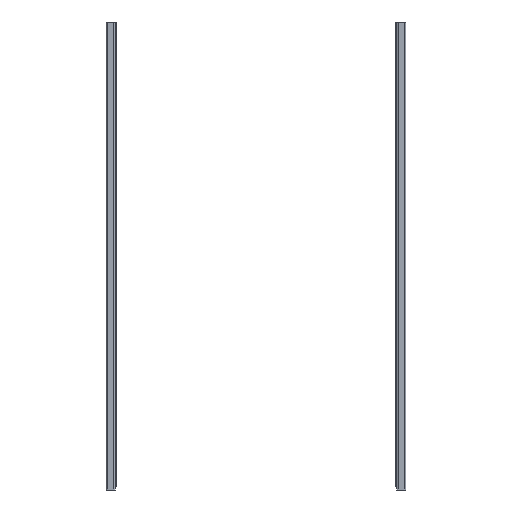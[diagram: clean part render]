
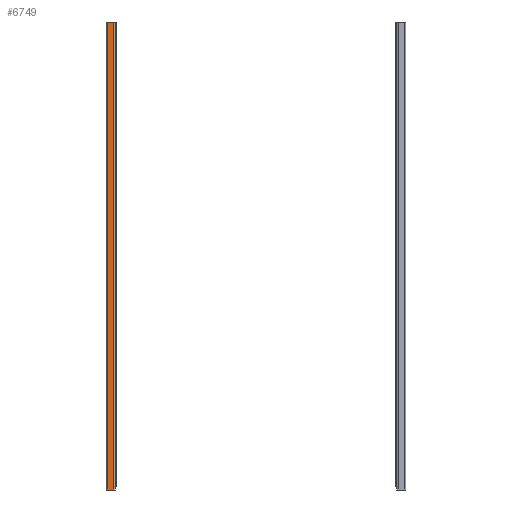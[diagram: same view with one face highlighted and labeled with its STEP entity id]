
A CAD part, front view. The second image highlights one B-rep face of the part: STEP entity #6749.
In plain terms, the highlighted planar face has unit normal (0, -1, 0).
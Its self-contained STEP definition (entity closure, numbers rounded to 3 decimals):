
#772=FACE_OUTER_BOUND('',#1137,.T.);
#1137=EDGE_LOOP('',(#4821,#4822,#4823,#4824));
#1654=LINE('',#10448,#2276);
#1655=LINE('',#10451,#2277);
#1656=LINE('',#10453,#2278);
#1657=LINE('',#10454,#2279);
#2276=VECTOR('',#8481,10.);
#2277=VECTOR('',#8484,10.);
#2278=VECTOR('',#8485,10.);
#2279=VECTOR('',#8486,10.);
#2903=VERTEX_POINT('',#10442);
#2905=VERTEX_POINT('',#10446);
#2906=VERTEX_POINT('',#10450);
#2907=VERTEX_POINT('',#10452);
#3648=EDGE_CURVE('',#2903,#2905,#1654,.T.);
#3649=EDGE_CURVE('',#2906,#2905,#1655,.T.);
#3650=EDGE_CURVE('',#2906,#2907,#1656,.T.);
#3651=EDGE_CURVE('',#2903,#2907,#1657,.T.);
#4821=ORIENTED_EDGE('',*,*,#3648,.T.);
#4822=ORIENTED_EDGE('',*,*,#3649,.F.);
#4823=ORIENTED_EDGE('',*,*,#3650,.T.);
#4824=ORIENTED_EDGE('',*,*,#3651,.F.);
#6219=PLANE('',#7344);
#6749=ADVANCED_FACE('',(#772),#6219,.T.);
#7344=AXIS2_PLACEMENT_3D('',#10449,#8482,#8483);
#8481=DIRECTION('',(0.,0.,1.));
#8482=DIRECTION('center_axis',(0.,-1.,0.));
#8483=DIRECTION('ref_axis',(-1.,0.,0.));
#8484=DIRECTION('',(1.,0.,0.));
#8485=DIRECTION('',(0.,0.,-1.));
#8486=DIRECTION('',(-1.,0.,0.));
#10442=CARTESIAN_POINT('',(9.8,-22.25,-600.));
#10446=CARTESIAN_POINT('',(9.8,-22.25,0.));
#10448=CARTESIAN_POINT('',(9.8,-22.25,0.));
#10449=CARTESIAN_POINT('Origin',(11.8,-22.25,0.));
#10450=CARTESIAN_POINT('',(2.,-22.25,0.));
#10451=CARTESIAN_POINT('',(0.,-22.25,0.));
#10452=CARTESIAN_POINT('',(2.,-22.25,-600.));
#10453=CARTESIAN_POINT('',(2.,-22.25,0.));
#10454=CARTESIAN_POINT('',(0.,-22.25,-600.));
